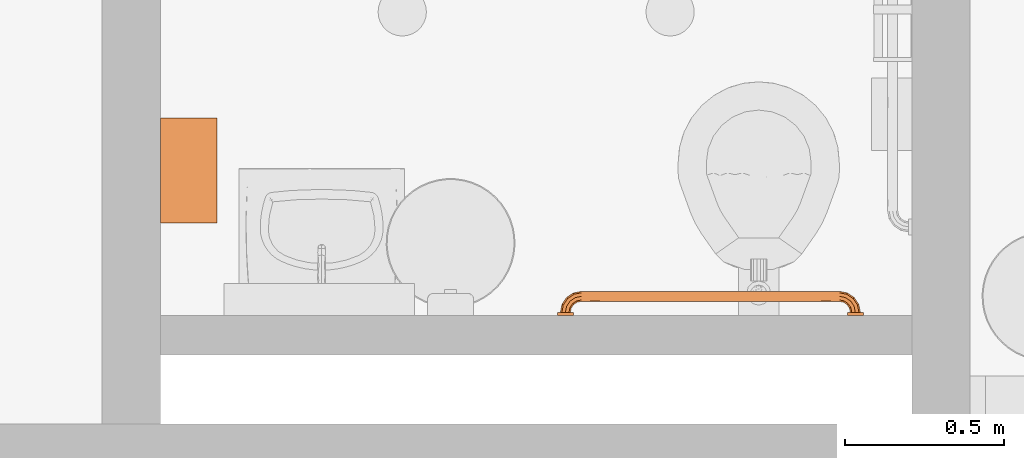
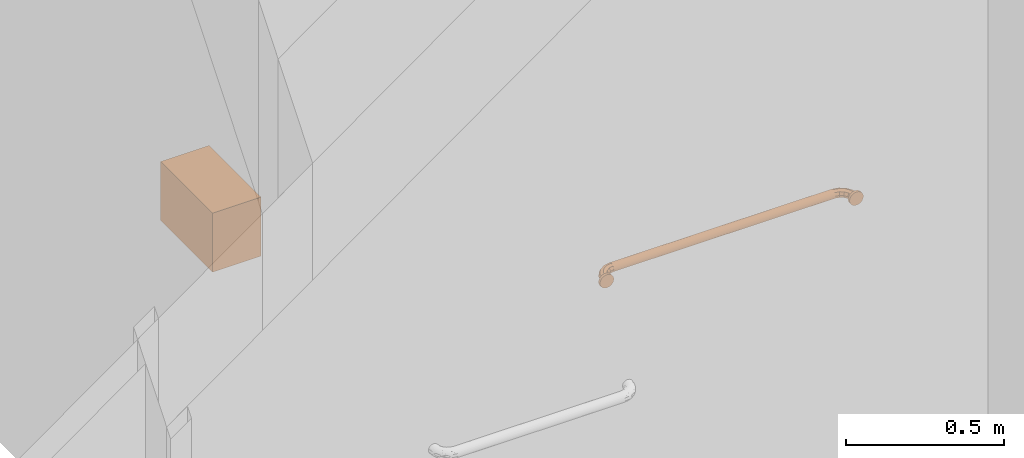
# One storey, part 74 of 142: 2 proxies.
"""IFC2X3 building model written with IfcOpenShell, lengths in feet."""

from ifc_helpers import new_model, entity, si_unit, converted_unit, derived_unit, direction, frame, frame_2d, origin, place, context, subcontext, project, spatial, rectangle, extrude, faceted_brep, source, transform, mapped, type_object, type_shapes, element, save


model = new_model("IFC2X3")

# Units and contexts
model_context = context("Model", 3, precision=0.0001, world=origin(), true_north=direction((6.12303176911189e-17, 1.0)))
body_context = subcontext(model_context, "Body", "Model", "MODEL_VIEW")
ifc_project = project(units=[converted_unit("LENGTHUNIT", "FOOT", entity("IfcRatioMeasure", 0.3048), si_unit("LENGTHUNIT", "METRE"), dimensions=[1, 0, 0, 0, 0, 0, 0]), converted_unit("AREAUNIT", "SQUARE FOOT", entity("IfcRatioMeasure", 0.09290304), si_unit("AREAUNIT", "SQUARE_METRE"), dimensions=[2, 0, 0, 0, 0, 0, 0]), converted_unit("VOLUMEUNIT", "CUBIC FOOT", entity("IfcRatioMeasure", 0.028316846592), si_unit("VOLUMEUNIT", "CUBIC_METRE"), dimensions=[3, 0, 0, 0, 0, 0, 0]), converted_unit("PLANEANGLEUNIT", "DEGREE", entity("IfcRatioMeasure", 0.0174532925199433), si_unit("PLANEANGLEUNIT", "RADIAN"), dimensions=[0, 0, 0, 0, 0, 0, 0]), si_unit("MASSUNIT", "GRAM", prefix="KILO"), derived_unit("MASSDENSITYUNIT", [(si_unit("MASSUNIT", "GRAM", prefix="KILO"), 1), (si_unit("LENGTHUNIT", "METRE"), -3)]), si_unit("TIMEUNIT", "SECOND"), si_unit("FREQUENCYUNIT", "HERTZ"), si_unit("THERMODYNAMICTEMPERATUREUNIT", "DEGREE_CELSIUS"), derived_unit("THERMALTRANSMITTANCEUNIT", [(si_unit("MASSUNIT", "GRAM", prefix="KILO"), 1), (si_unit("THERMODYNAMICTEMPERATUREUNIT", "KELVIN"), -1), (si_unit("TIMEUNIT", "SECOND"), -3)]), derived_unit("VOLUMETRICFLOWRATEUNIT", [(si_unit("LENGTHUNIT", "METRE"), 3), (si_unit("TIMEUNIT", "SECOND"), -1)]), si_unit("ELECTRICCURRENTUNIT", "AMPERE"), si_unit("ELECTRICVOLTAGEUNIT", "VOLT"), si_unit("POWERUNIT", "WATT"), si_unit("FORCEUNIT", "NEWTON"), si_unit("ILLUMINANCEUNIT", "LUX"), si_unit("LUMINOUSFLUXUNIT", "LUMEN"), si_unit("LUMINOUSINTENSITYUNIT", "CANDELA"), derived_unit("USERDEFINED", [(si_unit("MASSUNIT", "GRAM", prefix="KILO"), -1), (si_unit("LENGTHUNIT", "METRE"), -2), (si_unit("TIMEUNIT", "SECOND"), 3), (si_unit("LUMINOUSFLUXUNIT", "LUMEN"), 1)]), derived_unit("LINEARVELOCITYUNIT", [(si_unit("LENGTHUNIT", "METRE"), 1), (si_unit("TIMEUNIT", "SECOND"), -1)]), si_unit("PRESSUREUNIT", "PASCAL"), derived_unit("USERDEFINED", [(si_unit("LENGTHUNIT", "METRE"), -2), (si_unit("MASSUNIT", "GRAM", prefix="KILO"), 1), (si_unit("TIMEUNIT", "SECOND"), -2)])], contexts=[model_context])

# Site, building, storey, space
site_placement = place(None, origin())
site = spatial("IfcSite", under=ifc_project, at=site_placement, Name="Default", CompositionType="ELEMENT")
building_placement = place(site_placement, origin())
building = spatial("IfcBuilding", under=site, at=building_placement, Name="OUTPATIENT / PACT CLINIC (Ch. 265)", CompositionType="ELEMENT")
storey_placement = place(building_placement, origin())
storey = spatial("IfcBuildingStorey", under=building, at=storey_placement, Name="LEVEL 1", CompositionType="ELEMENT", Elevation=0.0)
space_placement = place(storey_placement, origin())
space = spatial("IfcSpace", under=storey, at=space_placement, Name="TNPG1", CompositionType="ELEMENT", InteriorOrExteriorSpace="INTERNAL")

# Proxies
building_element_proxy_type_1 = type_object("IfcBuildingElementProxyType", Name="A5080 - Dispenser, Paper Towel", PredefinedType="NOTDEFINED")
shared_shape_1 = source(origin(), body_context, "Body", "SweptSolid", [
    extrude(rectangle(XDim=1.08333333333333, YDim=0.58333333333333, at=frame_2d((0.0, 9.99200722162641e-16), x_axis=(1.0, 0.0))), frame((0.0, 0.291666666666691, 0.0), z_axis=(0.0, 0.0, 1.0), x_axis=(-1.0, 0.0, 0.0)), (0.0, 0.0, 1.0), 0.75),
])
type_shapes(building_element_proxy_type_1, [shared_shape_1])
proxy_1_placement = place(space_placement, frame((410.171643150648, -946.024655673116, 4.0), z_axis=(0.0, 0.0, 1.0), x_axis=(0.0, -1.0, 0.0)))
element("IfcBuildingElementProxy", 1, at=proxy_1_placement, inside=space, type_object=building_element_proxy_type_1, Name="A5080 - Dispenser, Paper Towel:A5080 - Dispenser, Paper Towel", ObjectType="A5080 - Dispenser, Paper Towel", context=body_context, shape_type="MappedRepresentation", body=[
    mapped(shared_shape_1, transform((0.0, 0.0, 0.0), scale=1.0)),
])
building_element_proxy_type_2 = type_object("IfcBuildingElementProxyType", Name="A5109 - Grab Bar, 1.25 in Dia, SS, 2 Wall, W-C Accessible_Improved", PredefinedType="NOTDEFINED")
shared_shape_2 = source(origin(), body_context, "Body", "Brep", [
    faceted_brep([(0.987313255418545, 0.0950305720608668, 0.0520833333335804), (0.953288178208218, 0.0809369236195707, 0.0368284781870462), (0.963171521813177, 0.031249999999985, 0.0368284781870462), (1.0, 0.0312499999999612, 0.0520833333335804), (0.939194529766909, 0.0750991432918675, 0.0), (0.947916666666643, 0.0312499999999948, 0.0), (0.953288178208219, 0.0809369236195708, -0.0368284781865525), (0.963171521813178, 0.031249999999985, -0.0368284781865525), (0.987313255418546, 0.0950305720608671, -0.0520833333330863), (1.0, 0.0312499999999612, -0.0520833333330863), (1.02133833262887, 0.109124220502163, -0.036828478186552), (1.03682847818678, 0.0312499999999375, -0.036828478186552), (1.03543198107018, 0.114962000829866, 0.0), (1.05208333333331, 0.0312499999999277, 0.0), (1.02133833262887, 0.109124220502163, 0.0368284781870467), (1.03682847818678, 0.0312499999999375, 0.0368284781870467), (0.951184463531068, 0.149101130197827, 0.0520833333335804), (0.925142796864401, 0.12305946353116, 0.0368284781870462), (0.914355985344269, 0.112272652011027, 0.0), (0.925142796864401, 0.12305946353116, -0.0368284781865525), (0.951184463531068, 0.149101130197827, -0.0520833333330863), (0.977226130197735, 0.175142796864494, -0.036828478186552), (0.988012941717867, 0.185929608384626, 0.0), (0.977226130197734, 0.175142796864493, 0.0368284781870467), (0.897113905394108, 0.185229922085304, 0.0520833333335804), (0.883020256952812, 0.151204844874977, 0.0368284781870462), (0.877182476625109, 0.137111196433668, 0.0), (0.883020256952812, 0.151204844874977, -0.0368284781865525), (0.897113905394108, 0.185229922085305, -0.0520833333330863), (0.911207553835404, 0.219254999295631, -0.036828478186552), (0.917045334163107, 0.23334864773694, 0.0), (0.911207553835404, 0.219254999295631, 0.0368284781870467), (0.833333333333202, 0.197916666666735, 0.0520833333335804), (0.833333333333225, 0.161088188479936, 0.0368284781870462), (0.833333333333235, 0.145833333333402, 0.0), (0.833333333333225, 0.161088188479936, -0.0368284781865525), (0.833333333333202, 0.197916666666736, -0.0520833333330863), (0.833333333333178, 0.234745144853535, -0.036828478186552), (0.833333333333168, 0.250000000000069, 0.0), (0.833333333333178, 0.234745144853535, 0.0368284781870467)], [[[0, 1, 2, 3]], [[1, 4, 5, 2]], [[4, 6, 7, 5]], [[6, 8, 9, 7]], [[8, 10, 11, 9]], [[10, 12, 13, 11]], [[12, 14, 15, 13]], [[14, 0, 3, 15]], [[16, 17, 1, 0]], [[17, 18, 4, 1]], [[18, 19, 6, 4]], [[19, 20, 8, 6]], [[20, 21, 10, 8]], [[21, 22, 12, 10]], [[22, 23, 14, 12]], [[23, 16, 0, 14]], [[24, 25, 17, 16]], [[25, 26, 18, 17]], [[26, 27, 19, 18]], [[27, 28, 20, 19]], [[28, 29, 21, 20]], [[29, 30, 22, 21]], [[30, 31, 23, 22]], [[31, 24, 16, 23]], [[32, 33, 25, 24]], [[33, 34, 26, 25]], [[34, 35, 27, 26]], [[35, 36, 28, 27]], [[36, 37, 29, 28]], [[37, 38, 30, 29]], [[38, 39, 31, 30]], [[39, 32, 24, 31]], [[3, 2, 5, 7, 9, 11, 13, 15]], [[39, 38, 37, 36, 35, 34, 33, 32]]]),
    faceted_brep([(0.958333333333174, 0.0312499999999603, -0.0721687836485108), (0.941074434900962, 0.0312499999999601, -0.0589255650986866), (0.927831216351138, 0.0312499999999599, -0.0416666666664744), (0.919506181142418, 0.0312499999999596, -0.0215682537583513), (0.916666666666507, 0.0312499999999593, 0.0), (0.919506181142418, 0.031249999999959, 0.021568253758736), (0.927831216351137, 0.0312499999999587, 0.0416666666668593), (0.941074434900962, 0.0312499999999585, 0.0589255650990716), (0.958333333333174, 0.0312499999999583, 0.0721687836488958), (0.978431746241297, 0.0312499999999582, 0.080493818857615), (1.0, 0.0312499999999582, 0.083333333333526), (1.02156825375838, 0.0312499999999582, 0.080493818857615), (1.04166666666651, 0.0312499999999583, 0.0721687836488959), (1.05892556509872, 0.0312499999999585, 0.0589255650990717), (1.07216878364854, 0.0312499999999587, 0.0416666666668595), (1.08049381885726, 0.031249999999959, 0.0215682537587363), (1.08333333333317, 0.0312499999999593, 0.0), (1.08049381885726, 0.0312499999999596, -0.0215682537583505), (1.07216878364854, 0.0312499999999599, -0.0416666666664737), (1.05892556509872, 0.0312499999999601, -0.0589255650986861), (1.04166666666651, 0.0312499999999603, -0.0721687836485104), (1.02156825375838, 0.0312499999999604, -0.0804938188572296), (1.0, 0.0312499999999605, -0.0833333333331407), (0.978431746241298, 0.0312499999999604, -0.0804938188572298), (0.978431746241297, 0.0, 0.0804938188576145), (0.958333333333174, 0.0, 0.0721687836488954), (0.941074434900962, 0.0, 0.0589255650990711), (0.927831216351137, 0.0, 0.0416666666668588), (0.919506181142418, 0.0, 0.0215682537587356), (0.916666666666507, 0.0, 0.0), (0.919506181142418, 0.0, -0.0215682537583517), (0.927831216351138, 0.0, -0.0416666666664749), (0.941074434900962, 0.0, -0.0589255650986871), (0.958333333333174, 0.0, -0.0721687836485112), (0.978431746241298, 0.0, -0.0804938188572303), (1.0, 0.0, -0.0833333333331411), (1.02156825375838, 0.0, -0.0804938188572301), (1.04166666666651, 0.0, -0.0721687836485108), (1.05892556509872, 0.0, -0.0589255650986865), (1.07216878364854, 0.0, -0.0416666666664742), (1.08049381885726, 0.0, -0.0215682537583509), (1.08333333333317, 0.0, 0.0), (1.08049381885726, 0.0, 0.0215682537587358), (1.07216878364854, 0.0, 0.0416666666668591), (1.05892556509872, 0.0, 0.0589255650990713), (1.04166666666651, 0.0, 0.0721687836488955), (1.02156825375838, 0.0, 0.0804938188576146), (1.0, 0.0, 0.0833333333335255)], [[[0, 1, 2, 3, 4, 5, 6, 7, 8, 9, 10, 11, 12, 13, 14, 15, 16, 17, 18, 19, 20, 21, 22, 23]], [[24, 25, 26, 27, 28, 29, 30, 31, 32, 33, 34, 35, 36, 37, 38, 39, 40, 41, 42, 43, 44, 45, 46, 47]], [[40, 17, 16, 41]], [[39, 18, 17, 40]], [[20, 19, 38, 37]], [[39, 38, 19, 18]], [[21, 20, 37, 36]], [[22, 21, 36, 35]], [[34, 23, 22, 35]], [[33, 0, 23, 34]], [[2, 1, 32, 31]], [[33, 32, 1, 0]], [[3, 2, 31, 30]], [[4, 3, 30, 29]], [[28, 5, 4, 29]], [[27, 6, 5, 28]], [[8, 7, 26, 25]], [[27, 26, 7, 6]], [[9, 8, 25, 24]], [[10, 9, 24, 47]], [[46, 11, 10, 47]], [[45, 12, 11, 46]], [[14, 13, 44, 43]], [[45, 44, 13, 12]], [[15, 14, 43, 42]], [[16, 15, 42, 41]]]),
    faceted_brep([(-1.89711390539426, 0.185229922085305, 0.052083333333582), (-1.88302025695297, 0.151204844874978, 0.0368284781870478), (-1.83333333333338, 0.161088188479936, 0.0368284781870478), (-1.83333333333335, 0.197916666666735, 0.052083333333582), (-1.87718247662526, 0.137111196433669, 0.0), (-1.83333333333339, 0.145833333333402, 0.0), (-1.88302025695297, 0.151204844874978, -0.0368284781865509), (-1.83333333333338, 0.161088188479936, -0.0368284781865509), (-1.89711390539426, 0.185229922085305, -0.0520833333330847), (-1.83333333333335, 0.197916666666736, -0.0520833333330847), (-1.91120755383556, 0.219254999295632, -0.0368284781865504), (-1.83333333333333, 0.234745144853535, -0.0368284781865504), (-1.91704533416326, 0.233348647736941, 0.0), (-1.83333333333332, 0.250000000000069, 0.0), (-1.91120755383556, 0.219254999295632, 0.0368284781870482), (-1.83333333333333, 0.234745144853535, 0.0368284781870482), (-1.95118446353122, 0.149101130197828, 0.052083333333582), (-1.92514279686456, 0.123059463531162, 0.0368284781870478), (-1.91435598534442, 0.112272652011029, 0.0), (-1.92514279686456, 0.123059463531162, -0.0368284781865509), (-1.95118446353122, 0.149101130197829, -0.0520833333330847), (-1.97722613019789, 0.175142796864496, -0.0368284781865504), (-1.98801294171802, 0.185929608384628, 0.0), (-1.97722613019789, 0.175142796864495, 0.0368284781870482), (-1.9873132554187, 0.0950305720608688, 0.052083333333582), (-1.95328817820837, 0.0809369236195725, 0.0368284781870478), (-1.93919452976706, 0.0750991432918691, 0.0), (-1.95328817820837, 0.0809369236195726, -0.0368284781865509), (-1.9873132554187, 0.0950305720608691, -0.0520833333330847), (-2.02133833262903, 0.109124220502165, -0.0368284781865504), (-2.03543198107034, 0.114962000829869, 0.0), (-2.02133833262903, 0.109124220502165, 0.0368284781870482), (-2.0, 0.0312499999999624, 0.052083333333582), (-1.96317152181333, 0.0312499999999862, 0.0368284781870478), (-1.9479166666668, 0.0312499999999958, 0.0), (-1.96317152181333, 0.0312499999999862, -0.0368284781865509), (-2.0, 0.0312499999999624, -0.0520833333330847), (-2.03682847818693, 0.0312499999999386, -0.0368284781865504), (-2.05208333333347, 0.031249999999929, 0.0), (-2.03682847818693, 0.0312499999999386, 0.0368284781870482)], [[[0, 1, 2, 3]], [[1, 4, 5, 2]], [[4, 6, 7, 5]], [[6, 8, 9, 7]], [[8, 10, 11, 9]], [[10, 12, 13, 11]], [[12, 14, 15, 13]], [[14, 0, 3, 15]], [[16, 17, 1, 0]], [[17, 18, 4, 1]], [[18, 19, 6, 4]], [[19, 20, 8, 6]], [[20, 21, 10, 8]], [[21, 22, 12, 10]], [[22, 23, 14, 12]], [[23, 16, 0, 14]], [[24, 25, 17, 16]], [[25, 26, 18, 17]], [[26, 27, 19, 18]], [[27, 28, 20, 19]], [[28, 29, 21, 20]], [[29, 30, 22, 21]], [[30, 31, 23, 22]], [[31, 24, 16, 23]], [[32, 33, 25, 24]], [[33, 34, 26, 25]], [[34, 35, 27, 26]], [[35, 36, 28, 27]], [[36, 37, 29, 28]], [[37, 38, 30, 29]], [[38, 39, 31, 30]], [[39, 32, 24, 31]], [[3, 2, 5, 7, 9, 11, 13, 15]], [[39, 38, 37, 36, 35, 34, 33, 32]]]),
    faceted_brep([(-1.97843174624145, 0.0312499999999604, -0.0804938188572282), (-2.0, 0.0312499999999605, -0.0833333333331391), (-2.02156825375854, 0.0312499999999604, -0.080493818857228), (-2.04166666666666, 0.0312499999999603, -0.0721687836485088), (-2.05892556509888, 0.0312499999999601, -0.0589255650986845), (-2.0721687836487, 0.0312499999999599, -0.0416666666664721), (-2.08049381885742, 0.0312499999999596, -0.0215682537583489), (-2.08333333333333, 0.0312499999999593, 0.0), (-2.08049381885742, 0.031249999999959, 0.0215682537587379), (-2.0721687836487, 0.0312499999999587, 0.0416666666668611), (-2.05892556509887, 0.0312499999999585, 0.0589255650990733), (-2.04166666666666, 0.0312499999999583, 0.0721687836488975), (-2.02156825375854, 0.0312499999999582, 0.0804938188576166), (-2.0, 0.0312499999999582, 0.0833333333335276), (-1.97843174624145, 0.0312499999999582, 0.0804938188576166), (-1.95833333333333, 0.0312499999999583, 0.0721687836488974), (-1.94107443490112, 0.0312499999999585, 0.0589255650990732), (-1.92783121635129, 0.0312499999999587, 0.0416666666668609), (-1.91950618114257, 0.031249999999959, 0.0215682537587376), (-1.91666666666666, 0.0312499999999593, 0.0), (-1.91950618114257, 0.0312499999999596, -0.0215682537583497), (-1.92783121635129, 0.0312499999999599, -0.0416666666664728), (-1.94107443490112, 0.0312499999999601, -0.058925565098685), (-1.95833333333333, 0.0312499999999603, -0.0721687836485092), (-2.0, 0.0, 0.0833333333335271), (-2.02156825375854, 0.0, 0.0804938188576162), (-2.04166666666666, 0.0, 0.0721687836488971), (-2.05892556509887, 0.0, 0.0589255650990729), (-2.0721687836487, 0.0, 0.0416666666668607), (-2.08049381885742, 0.0, 0.0215682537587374), (-2.08333333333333, 0.0, 0.0), (-2.08049381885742, 0.0, -0.0215682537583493), (-2.0721687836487, 0.0, -0.0416666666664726), (-2.05892556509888, 0.0, -0.0589255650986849), (-2.04166666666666, 0.0, -0.0721687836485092), (-2.02156825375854, 0.0, -0.0804938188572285), (-2.0, 0.0, -0.0833333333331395), (-1.97843174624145, 0.0, -0.0804938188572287), (-1.95833333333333, 0.0, -0.0721687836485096), (-1.94107443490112, 0.0, -0.0589255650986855), (-1.92783121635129, 0.0, -0.0416666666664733), (-1.91950618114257, 0.0, -0.0215682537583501), (-1.91666666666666, 0.0, 0.0), (-1.91950618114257, 0.0, 0.0215682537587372), (-1.92783121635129, 0.0, 0.0416666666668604), (-1.94107443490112, 0.0, 0.0589255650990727), (-1.95833333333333, 0.0, 0.072168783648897), (-1.97843174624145, 0.0, 0.0804938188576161)], [[[0, 1, 2, 3, 4, 5, 6, 7, 8, 9, 10, 11, 12, 13, 14, 15, 16, 17, 18, 19, 20, 21, 22, 23]], [[24, 25, 26, 27, 28, 29, 30, 31, 32, 33, 34, 35, 36, 37, 38, 39, 40, 41, 42, 43, 44, 45, 46, 47]], [[30, 7, 6, 31]], [[31, 6, 5, 32]], [[34, 33, 4, 3]], [[4, 33, 32, 5]], [[35, 34, 3, 2]], [[35, 2, 1, 36]], [[36, 1, 0, 37]], [[37, 0, 23, 38]], [[40, 39, 22, 21]], [[22, 39, 38, 23]], [[41, 40, 21, 20]], [[41, 20, 19, 42]], [[42, 19, 18, 43]], [[43, 18, 17, 44]], [[46, 45, 16, 15]], [[16, 45, 44, 17]], [[47, 46, 15, 14]], [[47, 14, 13, 24]], [[24, 13, 12, 25]], [[25, 12, 11, 26]], [[28, 27, 10, 9]], [[10, 27, 26, 11]], [[29, 28, 9, 8]], [[29, 8, 7, 30]]]),
    faceted_brep([(0.833333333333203, 0.161088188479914, 0.0368284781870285), (0.833333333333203, 0.152811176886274, 0.0260416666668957), (0.833333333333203, 0.147608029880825, 0.0134801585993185), (0.833333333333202, 0.14583333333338, 0.0), (0.833333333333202, 0.147608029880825, -0.0134801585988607), (0.833333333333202, 0.152811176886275, -0.0260416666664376), (0.833333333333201, 0.161088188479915, -0.0368284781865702), (0.833333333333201, 0.171875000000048, -0.0451054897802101), (0.833333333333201, 0.184436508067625, -0.0503086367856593), (0.833333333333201, 0.197916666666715, -0.0520833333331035), (0.833333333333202, 0.211396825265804, -0.0503086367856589), (0.833333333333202, 0.223958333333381, -0.0451054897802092), (0.833333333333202, 0.234745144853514, -0.0368284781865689), (0.833333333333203, 0.243022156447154, -0.0260416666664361), (0.833333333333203, 0.248225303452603, -0.013480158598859), (0.833333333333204, 0.250000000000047, 0.0), (0.833333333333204, 0.248225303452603, 0.0134801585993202), (0.833333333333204, 0.243022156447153, 0.0260416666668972), (0.833333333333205, 0.234745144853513, 0.0368284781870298), (0.833333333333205, 0.22395833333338, 0.0451054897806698), (0.833333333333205, 0.211396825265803, 0.050308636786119), (0.833333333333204, 0.197916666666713, 0.0520833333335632), (0.833333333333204, 0.184436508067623, 0.0503086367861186), (0.833333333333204, 0.171875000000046, 0.0451054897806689), (-1.83333333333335, 0.250000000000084, 0.0), (-1.83333333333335, 0.24822530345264, -0.0134801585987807), (-1.83333333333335, 0.243022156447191, -0.0260416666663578), (-1.83333333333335, 0.234745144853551, -0.0368284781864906), (-1.83333333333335, 0.223958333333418, -0.0451054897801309), (-1.83333333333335, 0.211396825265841, -0.0503086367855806), (-1.83333333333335, 0.197916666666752, -0.0520833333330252), (-1.83333333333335, 0.184436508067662, -0.050308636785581), (-1.83333333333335, 0.171875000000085, -0.0451054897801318), (-1.83333333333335, 0.161088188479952, -0.0368284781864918), (-1.83333333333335, 0.152811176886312, -0.0260416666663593), (-1.83333333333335, 0.147608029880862, -0.0134801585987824), (-1.83333333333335, 0.145833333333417, 0.0), (-1.83333333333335, 0.147608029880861, 0.0134801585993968), (-1.83333333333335, 0.152811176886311, 0.026041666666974), (-1.83333333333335, 0.161088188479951, 0.0368284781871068), (-1.83333333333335, 0.171875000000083, 0.0451054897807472), (-1.83333333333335, 0.18443650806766, 0.0503086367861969), (-1.83333333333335, 0.19791666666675, 0.0520833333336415), (-1.83333333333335, 0.21139682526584, 0.0503086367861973), (-1.83333333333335, 0.223958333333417, 0.0451054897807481), (-1.83333333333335, 0.23474514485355, 0.036828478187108), (-1.83333333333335, 0.24302215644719, 0.0260416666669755), (-1.83333333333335, 0.248225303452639, 0.0134801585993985), (0.027611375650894, 0.177985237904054, 0.0481187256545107), (0.213018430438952, 0.166210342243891, 0.0413204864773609), (0.0276113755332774, 0.156596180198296, 0.0317063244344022), (0.223932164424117, 0.149797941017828, 0.0199314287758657), (0.213018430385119, 0.14979794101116, -0.0199314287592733), (-0.500000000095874, 0.149797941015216, -0.0199314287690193), (-1.2130184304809, 0.14979794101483, -0.0199314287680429), (-0.500000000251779, 0.154851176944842, -0.0292922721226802), (0.21301843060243, 0.166210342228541, -0.0413204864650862), (-0.38666469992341, 0.187504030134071, -0.0510318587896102), (0.273230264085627, 0.187922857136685, -0.0511155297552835), (0.0276113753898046, 0.177985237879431, -0.0481187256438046), (-0.49999999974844, 0.166210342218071, -0.0413204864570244), (-1.02761137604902, 0.156596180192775, -0.0317063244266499), (-1.21301843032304, 0.166210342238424, -0.0413204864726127), (0.027611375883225, 0.15659618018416, -0.0317063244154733), (-0.500000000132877, 0.146752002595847, -0.00973913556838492), (-1.02761137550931, 0.146278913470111, -0.00679823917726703), (-1.02761137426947, 0.177985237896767, -0.0481187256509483), (-0.499999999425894, 0.177964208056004, -0.0481100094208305), (-1.02761137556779, 0.156596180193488, 0.0317063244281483), (-0.00758943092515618, 0.197916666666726, -0.0520833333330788), (-1.27323026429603, 0.18792285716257, 0.0511155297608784), (-0.992385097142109, 0.197916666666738, 0.0520833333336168), (0.0276113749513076, 0.146278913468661, -0.00679823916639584), (0.200359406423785, 0.146278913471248, 0.00679823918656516), (-1.22393216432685, 0.149797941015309, 0.0199314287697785), (-0.500000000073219, 0.149797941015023, 0.0199314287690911), (-0.49999999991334, 0.154851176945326, 0.0292922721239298), (-1.20035940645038, 0.146278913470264, 0.00679823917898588), (-1.21301843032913, 0.166210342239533, 0.041320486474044), (-0.499999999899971, 0.166210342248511, 0.0413204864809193), (-1.02761137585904, 0.177985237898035, 0.0481187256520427), (-0.50000000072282, 0.145915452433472, 0.00292358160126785), (0.264201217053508, 0.188316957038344, 0.051191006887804), (-1.26420121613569, 0.188316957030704, -0.0511910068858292), (-0.613335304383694, 0.187504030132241, 0.0510318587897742), (-0.50000000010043, 0.177964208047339, 0.0481100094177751), (-0.920461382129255, 0.197916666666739, -0.052083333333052), (-0.079537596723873, 0.197916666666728, -0.0520833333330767), (-0.0795258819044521, 0.197916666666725, 0.05208333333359), (-0.920474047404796, 0.197916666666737, 0.0520833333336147), (-0.992408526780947, 0.19791666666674, -0.0520833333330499), (-0.00758275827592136, 0.197916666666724, 0.0520833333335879), (0.0276113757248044, 0.217848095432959, -0.0481187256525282), (0.213018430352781, 0.229622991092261, -0.0413204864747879), (0.0276113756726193, 0.239237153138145, -0.0317063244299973), (0.223932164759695, 0.24603539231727, -0.0199314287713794), (0.213018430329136, 0.246035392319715, 0.0199314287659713), (-0.500000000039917, 0.246035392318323, 0.0199314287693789), (-1.21301843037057, 0.246035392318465, 0.0199314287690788), (-0.50000000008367, 0.240982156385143, 0.0292922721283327), (0.213018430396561, 0.229622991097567, 0.0413204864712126), (-0.386664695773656, 0.208329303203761, 0.0510318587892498), (0.273230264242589, 0.207910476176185, 0.0511155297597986), (0.0276113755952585, 0.217848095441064, 0.0481187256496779), (-0.49999999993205, 0.229622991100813, 0.0413204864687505), (-1.02761137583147, 0.239237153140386, 0.0317063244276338), (-1.21301843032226, 0.229622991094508, 0.0413204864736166), (0.0276113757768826, 0.239237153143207, 0.0317063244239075), (-0.500000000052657, 0.249081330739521, 0.00973913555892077), (-1.02761137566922, 0.249554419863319, 0.00679823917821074), (-1.02761137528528, 0.217848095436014, 0.0481187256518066), (-0.499999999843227, 0.217869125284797, 0.0481100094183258), (-1.0276113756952, 0.239237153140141, -0.0317063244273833), (-1.27323026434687, 0.207910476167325, -0.0511155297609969), (0.0276113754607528, 0.249554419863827, 0.00679823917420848), (0.200359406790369, 0.249554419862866, -0.0067982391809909), (-1.22393216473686, 0.246035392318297, -0.0199314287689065), (-0.500000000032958, 0.246035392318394, -0.0199314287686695), (-0.499999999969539, 0.240982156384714, -0.0292922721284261), (-1.20035940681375, 0.249554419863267, -0.00679823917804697), (-1.21301843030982, 0.229622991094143, -0.0413204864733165), (-0.499999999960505, 0.229622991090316, -0.041320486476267), (-1.02761137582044, 0.217848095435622, -0.0481187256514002), (-0.500000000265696, 0.249917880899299, -0.00292358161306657), (0.264201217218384, 0.207516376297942, -0.0511910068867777), (-1.26420121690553, 0.207516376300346, 0.0511910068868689), (-0.613335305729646, 0.20832930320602, -0.0510318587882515), (-0.500000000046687, 0.217869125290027, -0.048110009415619)], [[[0, 1, 2, 3, 4, 5, 6, 7, 8, 9, 10, 11, 12, 13, 14, 15, 16, 17, 18, 19, 20, 21, 22, 23]], [[24, 25, 26, 27, 28, 29, 30, 31, 32, 33, 34, 35, 36, 37, 38, 39, 40, 41, 42, 43, 44, 45, 46, 47]], [[23, 48, 49]], [[1, 50, 51]], [[52, 53, 54, 55]], [[7, 6, 56]], [[35, 34, 54]], [[57, 58, 59]], [[59, 58, 8]], [[60, 61, 62]], [[60, 56, 63]], [[34, 61, 54]], [[54, 64, 65]], [[32, 31, 66]], [[65, 36, 35]], [[57, 67, 66]], [[32, 62, 33]], [[68, 39, 38]], [[58, 69, 9]], [[42, 70, 71]], [[59, 56, 60]], [[60, 62, 66]], [[63, 52, 55]], [[72, 3, 73]], [[52, 5, 4]], [[6, 5, 63]], [[4, 72, 52]], [[74, 75, 51, 76]], [[77, 74, 37]], [[39, 68, 78]], [[61, 60, 55]], [[7, 59, 8]], [[79, 80, 78]], [[79, 49, 48]], [[81, 77, 65]], [[53, 52, 64, 54]], [[40, 39, 78]], [[6, 63, 56]], [[23, 22, 48]], [[72, 4, 3]], [[2, 51, 73]], [[0, 50, 1]], [[61, 34, 33]], [[32, 66, 62]], [[50, 49, 79]], [[79, 78, 68]], [[82, 22, 21]], [[74, 76, 68]], [[49, 0, 23]], [[83, 31, 30]], [[37, 36, 77]], [[80, 41, 40]], [[73, 3, 2]], [[65, 77, 36]], [[50, 79, 76]], [[84, 85, 48]], [[80, 70, 41]], [[84, 70, 80]], [[59, 67, 57]], [[66, 31, 83]], [[80, 85, 84]], [[48, 22, 82]], [[38, 37, 74]], [[81, 73, 75]], [[81, 64, 72]], [[1, 51, 2]], [[35, 54, 65]], [[5, 52, 63]], [[7, 56, 59]], [[33, 62, 61]], [[0, 49, 50]], [[40, 78, 80]], [[38, 74, 68]], [[74, 77, 75]], [[51, 75, 73]], [[77, 81, 75]], [[81, 72, 73]], [[65, 64, 81]], [[72, 64, 52]], [[8, 58, 9]], [[69, 58, 57]], [[57, 86, 87, 69]], [[83, 86, 57]], [[67, 60, 66]], [[67, 59, 60]], [[63, 55, 60]], [[61, 55, 54]], [[68, 76, 79]], [[50, 76, 51]], [[41, 70, 42]], [[71, 70, 84]], [[84, 88, 89, 71]], [[82, 88, 84]], [[85, 79, 48]], [[85, 80, 79]], [[66, 83, 57]], [[83, 30, 90, 86]], [[48, 82, 84]], [[82, 21, 91, 88]], [[11, 92, 93]], [[13, 94, 95]], [[96, 97, 98, 99]], [[19, 18, 100]], [[47, 46, 98]], [[101, 102, 103]], [[103, 102, 20]], [[104, 105, 106]], [[104, 100, 107]], [[46, 105, 98]], [[98, 108, 109]], [[44, 43, 110]], [[109, 24, 47]], [[101, 111, 110]], [[44, 106, 45]], [[112, 27, 26]], [[102, 91, 21]], [[30, 113, 90]], [[103, 100, 104]], [[104, 106, 110]], [[107, 96, 99]], [[114, 15, 115]], [[96, 17, 16]], [[18, 17, 107]], [[16, 114, 96]], [[116, 117, 95, 118]], [[119, 116, 25]], [[27, 112, 120]], [[105, 104, 99]], [[19, 103, 20]], [[121, 122, 120]], [[121, 93, 92]], [[123, 119, 109]], [[97, 96, 108, 98]], [[28, 27, 120]], [[18, 107, 100]], [[11, 10, 92]], [[114, 16, 15]], [[14, 95, 115]], [[12, 94, 13]], [[105, 46, 45]], [[44, 110, 106]], [[94, 93, 121]], [[121, 120, 112]], [[124, 10, 9]], [[116, 118, 112]], [[93, 12, 11]], [[125, 43, 42]], [[25, 24, 119]], [[122, 29, 28]], [[115, 15, 14]], [[109, 119, 24]], [[94, 121, 118]], [[126, 127, 92]], [[122, 113, 29]], [[126, 113, 122]], [[103, 111, 101]], [[110, 43, 125]], [[122, 127, 126]], [[92, 10, 124]], [[26, 25, 116]], [[123, 115, 117]], [[123, 108, 114]], [[13, 95, 14]], [[47, 98, 109]], [[17, 96, 107]], [[19, 100, 103]], [[45, 106, 105]], [[12, 93, 94]], [[28, 120, 122]], [[26, 116, 112]], [[116, 119, 117]], [[95, 117, 115]], [[119, 123, 117]], [[123, 114, 115]], [[109, 108, 123]], [[114, 108, 96]], [[20, 102, 21]], [[91, 102, 101]], [[101, 89, 88, 91]], [[125, 89, 101]], [[111, 104, 110]], [[111, 103, 104]], [[107, 99, 104]], [[105, 99, 98]], [[112, 118, 121]], [[94, 118, 95]], [[29, 113, 30]], [[90, 113, 126]], [[126, 87, 86, 90]], [[124, 87, 126]], [[127, 121, 92]], [[127, 122, 121]], [[110, 125, 101]], [[125, 42, 71, 89]], [[92, 124, 126]], [[124, 9, 69, 87]]]),
])
type_shapes(building_element_proxy_type_2, [shared_shape_2])
proxy_2_placement = place(space_placement, frame((416.359283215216, -947.524655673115, 3.0)))
element("IfcBuildingElementProxy", 2, at=proxy_2_placement, inside=space, type_object=building_element_proxy_type_2, Name="A5109 - Grab Bar, 1.25 in Dia, SS, 2 Wall, W-C Accessible_Improved1:A5109 - Grab Bar, 1.25 in Dia, SS, 2 Wall, W-C Accessible_Improved", ObjectType="A5109 - Grab Bar, 1.25 in Dia, SS, 2 Wall, W-C Accessible_Improved", context=body_context, shape_type="MappedRepresentation", body=[
    mapped(shared_shape_2, transform((0.0, 0.0, 0.0), scale=1.0)),
])

save(model, "model.ifc")
